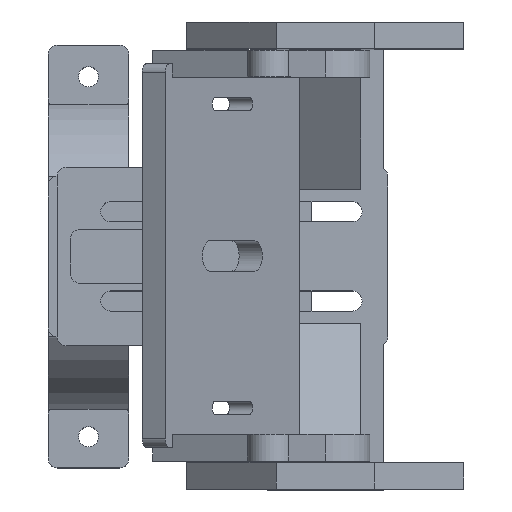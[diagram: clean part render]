
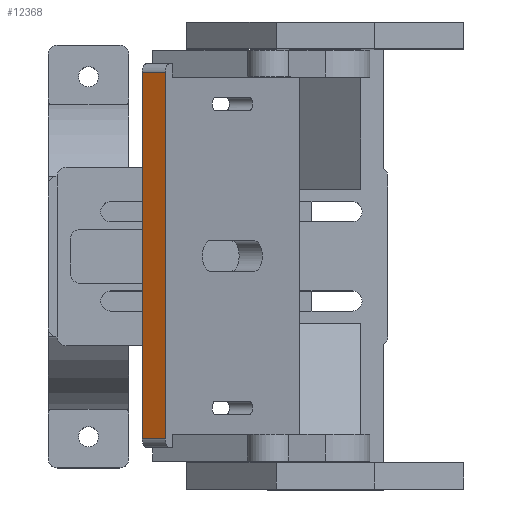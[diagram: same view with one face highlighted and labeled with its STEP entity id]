
A CAD part, top view. The second image highlights one B-rep face of the part: STEP entity #12368.
In plain terms, the highlighted planar face has unit normal (-0.5, 0, 0.866).
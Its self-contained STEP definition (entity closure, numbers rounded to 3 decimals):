
#12368 = ADVANCED_FACE('',(#12369),#12383,.F.);
#12369 = FACE_BOUND('',#12370,.F.);
#12370 = EDGE_LOOP('',(#12371,#12406,#12434,#12462));
#12371 = ORIENTED_EDGE('',*,*,#12372,.F.);
#12372 = EDGE_CURVE('',#12373,#12375,#12377,.T.);
#12373 = VERTEX_POINT('',#12374);
#12374 = CARTESIAN_POINT('',(-27.785,-41.,129.281));
#12375 = VERTEX_POINT('',#12376);
#12376 = CARTESIAN_POINT('',(-27.785,41.,129.281));
#12377 = SURFACE_CURVE('',#12378,(#12382,#12394),.PCURVE_S1.);
#12378 = LINE('',#12379,#12380);
#12379 = CARTESIAN_POINT('',(-27.785,-43.,129.281));
#12380 = VECTOR('',#12381,1.);
#12381 = DIRECTION('',(0.,1.,0.));
#12382 = PCURVE('',#12383,#12388);
#12383 = PLANE('',#12384);
#12384 = AXIS2_PLACEMENT_3D('',#12385,#12386,#12387);
#12385 = CARTESIAN_POINT('',(-32.981,-43.,126.281));
#12386 = DIRECTION('',(0.5,0.,-0.866));
#12387 = DIRECTION('',(0.866,0.,0.5));
#12388 = DEFINITIONAL_REPRESENTATION('',(#12389),#12393);
#12389 = LINE('',#12390,#12391);
#12390 = CARTESIAN_POINT('',(6.,0.));
#12391 = VECTOR('',#12392,1.);
#12392 = DIRECTION('',(0.,-1.));
#12393 = ( GEOMETRIC_REPRESENTATION_CONTEXT(2) 
PARAMETRIC_REPRESENTATION_CONTEXT() REPRESENTATION_CONTEXT('2D SPACE',''
  ) );
#12394 = PCURVE('',#12395,#12400);
#12395 = PLANE('',#12396);
#12396 = AXIS2_PLACEMENT_3D('',#12397,#12398,#12399);
#12397 = CARTESIAN_POINT('',(-27.785,-43.,129.281));
#12398 = DIRECTION('',(0.866,0.,0.5));
#12399 = DIRECTION('',(0.5,0.,-0.866));
#12400 = DEFINITIONAL_REPRESENTATION('',(#12401),#12405);
#12401 = LINE('',#12402,#12403);
#12402 = CARTESIAN_POINT('',(0.,0.));
#12403 = VECTOR('',#12404,1.);
#12404 = DIRECTION('',(0.,1.));
#12405 = ( GEOMETRIC_REPRESENTATION_CONTEXT(2) 
PARAMETRIC_REPRESENTATION_CONTEXT() REPRESENTATION_CONTEXT('2D SPACE',''
  ) );
#12406 = ORIENTED_EDGE('',*,*,#12407,.F.);
#12407 = EDGE_CURVE('',#12408,#12373,#12410,.T.);
#12408 = VERTEX_POINT('',#12409);
#12409 = CARTESIAN_POINT('',(-32.981,-41.,126.281));
#12410 = SURFACE_CURVE('',#12411,(#12415,#12422),.PCURVE_S1.);
#12411 = LINE('',#12412,#12413);
#12412 = CARTESIAN_POINT('',(-32.981,-41.,126.281));
#12413 = VECTOR('',#12414,1.);
#12414 = DIRECTION('',(0.866,0.,0.5));
#12415 = PCURVE('',#12383,#12416);
#12416 = DEFINITIONAL_REPRESENTATION('',(#12417),#12421);
#12417 = LINE('',#12418,#12419);
#12418 = CARTESIAN_POINT('',(0.,-2.));
#12419 = VECTOR('',#12420,1.);
#12420 = DIRECTION('',(1.,0.));
#12421 = ( GEOMETRIC_REPRESENTATION_CONTEXT(2) 
PARAMETRIC_REPRESENTATION_CONTEXT() REPRESENTATION_CONTEXT('2D SPACE',''
  ) );
#12422 = PCURVE('',#12423,#12428);
#12423 = CYLINDRICAL_SURFACE('',#12424,2.);
#12424 = AXIS2_PLACEMENT_3D('',#12425,#12426,#12427);
#12425 = CARTESIAN_POINT('',(-31.981,-41.,124.549));
#12426 = DIRECTION('',(0.866,0.,0.5));
#12427 = DIRECTION('',(-0.5,0.,0.866));
#12428 = DEFINITIONAL_REPRESENTATION('',(#12429),#12433);
#12429 = LINE('',#12430,#12431);
#12430 = CARTESIAN_POINT('',(0.,0.));
#12431 = VECTOR('',#12432,1.);
#12432 = DIRECTION('',(0.,1.));
#12433 = ( GEOMETRIC_REPRESENTATION_CONTEXT(2) 
PARAMETRIC_REPRESENTATION_CONTEXT() REPRESENTATION_CONTEXT('2D SPACE',''
  ) );
#12434 = ORIENTED_EDGE('',*,*,#12435,.T.);
#12435 = EDGE_CURVE('',#12408,#12436,#12438,.T.);
#12436 = VERTEX_POINT('',#12437);
#12437 = CARTESIAN_POINT('',(-32.981,41.,126.281));
#12438 = SURFACE_CURVE('',#12439,(#12443,#12450),.PCURVE_S1.);
#12439 = LINE('',#12440,#12441);
#12440 = CARTESIAN_POINT('',(-32.981,-43.,126.281));
#12441 = VECTOR('',#12442,1.);
#12442 = DIRECTION('',(0.,1.,0.));
#12443 = PCURVE('',#12383,#12444);
#12444 = DEFINITIONAL_REPRESENTATION('',(#12445),#12449);
#12445 = LINE('',#12446,#12447);
#12446 = CARTESIAN_POINT('',(0.,0.));
#12447 = VECTOR('',#12448,1.);
#12448 = DIRECTION('',(0.,-1.));
#12449 = ( GEOMETRIC_REPRESENTATION_CONTEXT(2) 
PARAMETRIC_REPRESENTATION_CONTEXT() REPRESENTATION_CONTEXT('2D SPACE',''
  ) );
#12450 = PCURVE('',#12451,#12456);
#12451 = PLANE('',#12452);
#12452 = AXIS2_PLACEMENT_3D('',#12453,#12454,#12455);
#12453 = CARTESIAN_POINT('',(-32.981,-43.,126.281));
#12454 = DIRECTION('',(0.866,0.,0.5));
#12455 = DIRECTION('',(0.5,0.,-0.866));
#12456 = DEFINITIONAL_REPRESENTATION('',(#12457),#12461);
#12457 = LINE('',#12458,#12459);
#12458 = CARTESIAN_POINT('',(0.,0.));
#12459 = VECTOR('',#12460,1.);
#12460 = DIRECTION('',(0.,1.));
#12461 = ( GEOMETRIC_REPRESENTATION_CONTEXT(2) 
PARAMETRIC_REPRESENTATION_CONTEXT() REPRESENTATION_CONTEXT('2D SPACE',''
  ) );
#12462 = ORIENTED_EDGE('',*,*,#12463,.T.);
#12463 = EDGE_CURVE('',#12436,#12375,#12464,.T.);
#12464 = SURFACE_CURVE('',#12465,(#12469,#12476),.PCURVE_S1.);
#12465 = LINE('',#12466,#12467);
#12466 = CARTESIAN_POINT('',(-32.981,41.,126.281));
#12467 = VECTOR('',#12468,1.);
#12468 = DIRECTION('',(0.866,0.,0.5));
#12469 = PCURVE('',#12383,#12470);
#12470 = DEFINITIONAL_REPRESENTATION('',(#12471),#12475);
#12471 = LINE('',#12472,#12473);
#12472 = CARTESIAN_POINT('',(0.,-84.));
#12473 = VECTOR('',#12474,1.);
#12474 = DIRECTION('',(1.,0.));
#12475 = ( GEOMETRIC_REPRESENTATION_CONTEXT(2) 
PARAMETRIC_REPRESENTATION_CONTEXT() REPRESENTATION_CONTEXT('2D SPACE',''
  ) );
#12476 = PCURVE('',#12477,#12482);
#12477 = CYLINDRICAL_SURFACE('',#12478,2.);
#12478 = AXIS2_PLACEMENT_3D('',#12479,#12480,#12481);
#12479 = CARTESIAN_POINT('',(-31.981,41.,124.549));
#12480 = DIRECTION('',(0.866,0.,0.5));
#12481 = DIRECTION('',(-0.5,0.,0.866));
#12482 = DEFINITIONAL_REPRESENTATION('',(#12483),#12487);
#12483 = LINE('',#12484,#12485);
#12484 = CARTESIAN_POINT('',(-0.,0.));
#12485 = VECTOR('',#12486,1.);
#12486 = DIRECTION('',(-0.,1.));
#12487 = ( GEOMETRIC_REPRESENTATION_CONTEXT(2) 
PARAMETRIC_REPRESENTATION_CONTEXT() REPRESENTATION_CONTEXT('2D SPACE',''
  ) );
